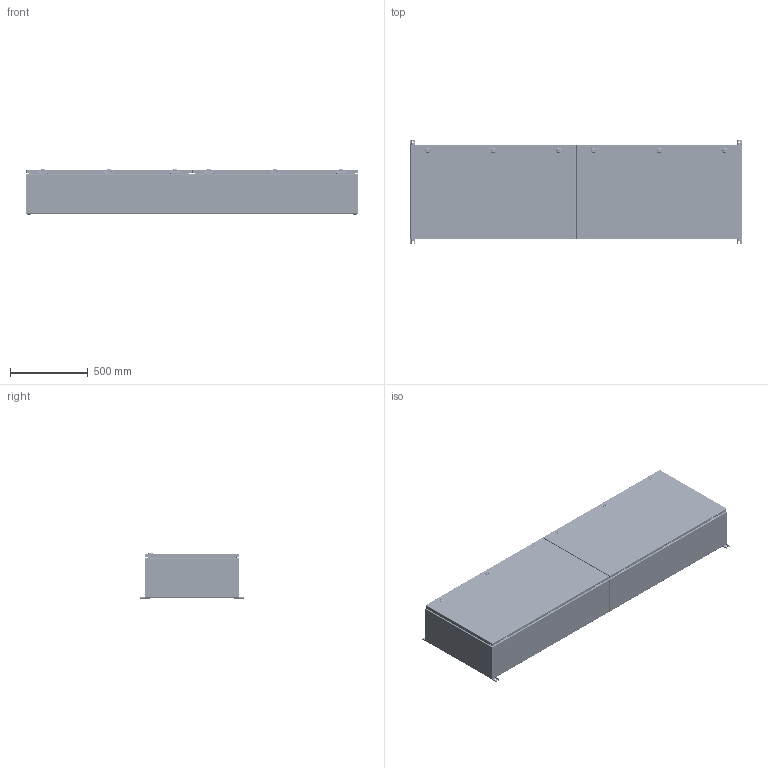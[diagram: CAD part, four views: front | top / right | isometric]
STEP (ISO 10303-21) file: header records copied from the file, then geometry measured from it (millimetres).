
FILE_DESCRIPTION(/* description */ ('1412BTCU 600A - 3 Wires x 84" Assembly'),/* implementation_level */ '2;1');
FILE_NAME(/* name */ 'C:\Vault_Workspace\Inventor_Dwg\BoxCad\Result\1412BTCU07603\e-mail\3D\1412BTCU07603.stp',/* time_stamp */ '2022-09-08T14:32:52-04:00',/* author */ ('BoxCad'),/* organization */ (''),/* preprocessor_version */ 'ST-DEVELOPER v18.1',/* originating_system */ 'Autodesk Inventor 2020',/* authorisation */ '');
FILE_SCHEMA (('AUTOMOTIVE_DESIGN { 1 0 10303 214 3 1 1 }'));
Products named in the file (64): 1412BTCU07603; 1412BTCU07603B; 1412BTCU07603B-P; 1412BTCU07603E-P; STK-Q-16005; iLogic_STK-G-00701; STK-Q-00260; STK-Q-07220-1; STK-Q-07220-A; STK-Q-07220-B; 1412BTCU07603C; 1412BTCU07603C-P; 1412BTCU07603F-P; 1412BTCU07603G; STK-Q-16080; STK-K-09800; STK-Q-33014; STK-Q-90398; STK-Q-40095; STK-Q-63410; STK-S-00100; STK-P-02400S; STK-A-880SCQ4-SL-1; STK-A-880SCQ4-SL-2; STK-A-880SCQ4-SL-3; STK-A-880SCQ4-SL-4; STK-A-880SCQ4-SL-5; STK-Q-78141; STK-A-880SCQ4-SL-6; STK-Q-78110; STK-Q-78120; STK-Q-78145; STK-Q-03200; STK-Q-78125; STK-Q-78140; STK-Q-90390; STK-Q-78160; 1412BTCU07603IP1; 1412BTCU07603IP1-P; 1412BTCU07603IP2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
Assembly tree (189 placements, depth 4):
  1412BTCU07603
    1412BTCU07603B
      1412BTCU07603B-P
      1412BTCU07603E-P
      STK-Q-16080  x2
      STK-Q-16005  x10
      iLogic_STK-G-00701
      STK-Q-00260  x10
      STK-Q-07220-1  x10
        STK-Q-07220-A
        STK-Q-07220-B
      STK-S-00100
      STK-P-02400S
    1412BTCU07603C
      1412BTCU07603C-P
      1412BTCU07603F-P
      1412BTCU07603G  x2
      STK-Q-16080  x2
      STK-K-09800  x6
        STK-Q-33014
        STK-Q-90398
        STK-Q-40095
        STK-Q-63410
      STK-S-00100
      STK-P-02400S
      STK-A-880SCQ4-SL-1
        STK-Q-78110
        STK-Q-78120
        STK-Q-78145
        STK-Q-03200
        STK-Q-78125
        STK-Q-78141
        STK-Q-90390
        STK-Q-78160
      STK-A-880SCQ4-SL-2
        STK-Q-78110
        STK-Q-78120
        STK-Q-78145
        STK-Q-03200
        STK-Q-78125
        STK-Q-78141
        STK-Q-90390
        STK-Q-78160
      STK-A-880SCQ4-SL-3
        STK-Q-78110
        STK-Q-78120
        STK-Q-78145
        STK-Q-03200
        STK-Q-78125
        STK-Q-78141
        STK-Q-90390
        STK-Q-78160
      STK-A-880SCQ4-SL-4
        STK-Q-78110
        STK-Q-78120
        STK-Q-78145
        STK-Q-03200
        STK-Q-78125
        STK-Q-78141
        STK-Q-90390
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Bounding box: 2133.6 x 666.75 x 294.19 mm (x, y, z)
Volume: 11681049 mm3; surface area: 11357238.4 mm2
Topology: 257 solids, 257 shells, 34539 faces, 90159 edges, 56098 vertices
Faces by surface type: plane 12173, bspline 9424, cylinder 8916, torus 2656, sphere 834, cone 536
Full cylindrical faces by diameter (mm): 0.75 x14, 0.762 x14, 1 x24, 1.1 x24, 3.2 x12, 4.5 x36, 4.521 x24, 4.85 x48, 4.95 x12, 5 x10, 5.1 x102, 5.6 x6, 5.9 x234, 6.65 x19, 6.8 x10, 6.85 x68, 7.3 x6, 7.366 x8, 7.8 x369, 7.9 x10, 8 x50, 8.25 x18, 8.382 x6, 8.6 x12, 9.5 x10, 9.6 x6, 9.7 x48, 9.906 x4, 10 x6, 10.312 x2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
Entity records: 220213 total; most frequent: CARTESIAN_POINT 85509, ORIENTED_EDGE 29448, DIRECTION 24515, EDGE_CURVE 14724, VERTEX_POINT 9335, AXIS2_PLACEMENT_3D 8557, LINE 7401, VECTOR 7401
